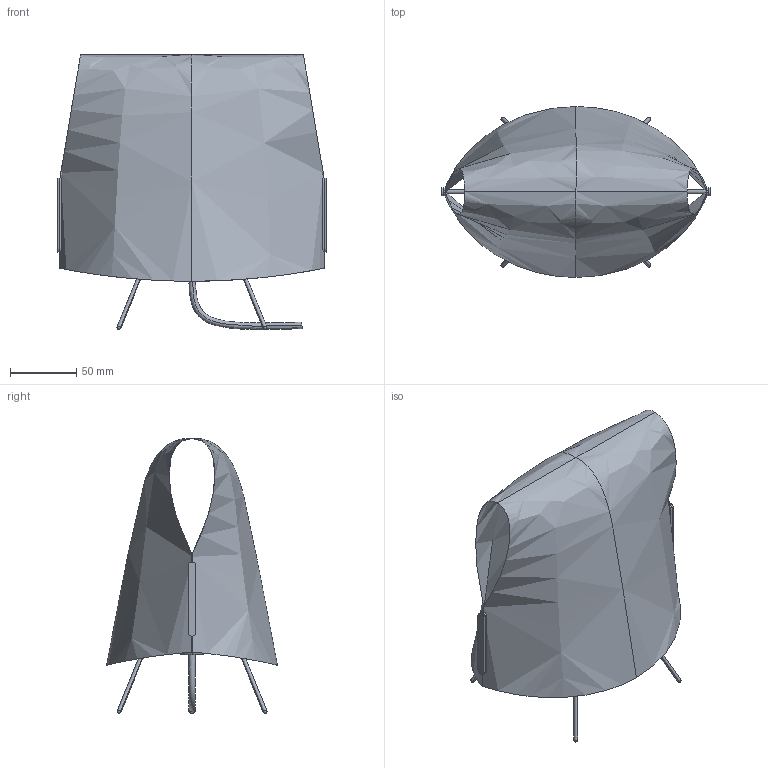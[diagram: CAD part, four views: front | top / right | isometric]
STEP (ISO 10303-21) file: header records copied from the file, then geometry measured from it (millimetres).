
FILE_DESCRIPTION(/* description */ (''),/* implementation_level */ '2;1');
FILE_NAME(/* name */ '23065.step',/* time_stamp */ '2024-06-19T08:43:44+02:00',/* author */ ('RenataManzini'),/* organization */ (''),/* preprocessor_version */ 'ST-DEVELOPER v20',/* originating_system */ 'AutoCAD Mechanical',/* authorisation */ '');
FILE_SCHEMA (('AUTOMOTIVE_DESIGN { 1 0 10303 214 3 1 1 }'));
Length unit declared in the file: millimetre
Products named in the file (3): Product; luang_xs_sobremesa - pieza_soporte_luang-707018-_3D_; luang_xs_sobremesa - LUANG XS SOBREMESA_dwg_PANTALLA LUANG-708262-_3D
_
Assembly tree (2 placements, depth 3):
  Product
    luang_xs_sobremesa - pieza_soporte_luang-707018-_3D_
      luang_xs_sobremesa - LUANG XS SOBREMESA_dwg_PANTALLA LUANG-708262-_3D
_
Bounding box: 202.8 x 128.79 x 207.33 mm (x, y, z)
Volume: 35329.2 mm3; surface area: 101697.2 mm2
Topology: 15 solids, 16 shells, 122 faces, 255 edges, 156 vertices
Faces by surface type: cylinder 50, plane 48, bspline 8, sphere 8, torus 8
Entity records: 6830 total; most frequent: CARTESIAN_POINT 4274, DIRECTION 522, ORIENTED_EDGE 468, EDGE_CURVE 244, AXIS2_PLACEMENT_3D 216, VERTEX_POINT 151, EDGE_LOOP 136, FACE_OUTER_BOUND 122
